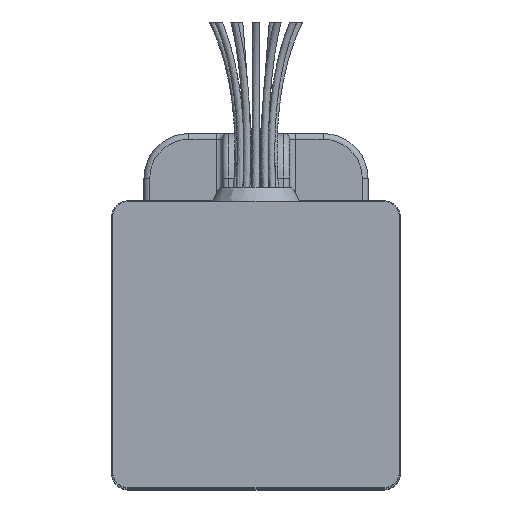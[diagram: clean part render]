
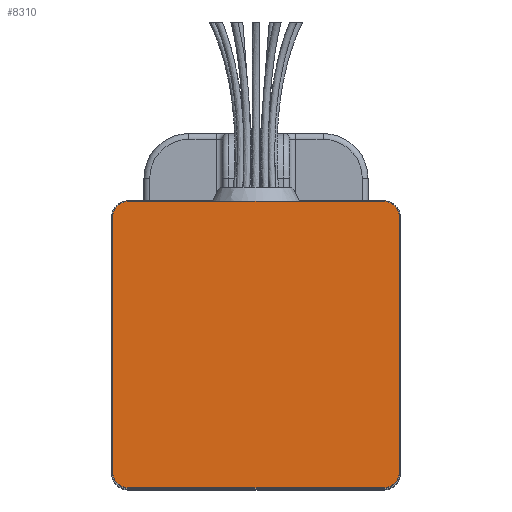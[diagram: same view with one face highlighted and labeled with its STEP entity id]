
A CAD part, top view. The second image highlights one B-rep face of the part: STEP entity #8310.
In plain terms, the highlighted planar face has unit normal (0, 0, 1).
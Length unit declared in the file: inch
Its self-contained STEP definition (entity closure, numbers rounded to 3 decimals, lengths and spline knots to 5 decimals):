
#4888=CARTESIAN_POINT('',(-0.71,0.8,0.0625));
#4889=VERTEX_POINT('',#4888);
#4896=CARTESIAN_POINT('',(0.71,0.8,0.0625));
#4897=VERTEX_POINT('',#4896);
#4898=CARTESIAN_POINT('',(-0.71,0.8,0.0625));
#4899=DIRECTION('',(1.0,0.0,0.0));
#4900=VECTOR('',#4899,1.42);
#4901=LINE('',#4898,#4900);
#4902=EDGE_CURVE('',#4889,#4897,#4901,.T.);
#8071=CARTESIAN_POINT('',(0.8,0.71,0.0625));
#8072=VERTEX_POINT('',#8071);
#8079=CARTESIAN_POINT('',(0.8,-0.71,0.0625));
#8080=VERTEX_POINT('',#8079);
#8081=CARTESIAN_POINT('',(0.8,0.71,0.0625));
#8082=DIRECTION('',(0.0,-1.0,0.0));
#8083=VECTOR('',#8082,1.42);
#8084=LINE('',#8081,#8083);
#8085=EDGE_CURVE('',#8072,#8080,#8084,.T.);
#8103=CARTESIAN_POINT('',(0.71,0.71,0.0625));
#8104=DIRECTION('',(0.0,0.0,-1.));
#8105=DIRECTION('',(0.707,0.707,0.0));
#8106=AXIS2_PLACEMENT_3D('',#8103,#8104,#8105);
#8107=CIRCLE('',#8106,0.09);
#8108=EDGE_CURVE('',#4897,#8072,#8107,.T.);
#8144=CARTESIAN_POINT('',(-0.8,0.71,0.0625));
#8145=VERTEX_POINT('',#8144);
#8152=CARTESIAN_POINT('',(-0.71,0.71,0.0625));
#8153=DIRECTION('',(0.0,0.0,-1.));
#8154=DIRECTION('',(-0.707,0.707,0.0));
#8155=AXIS2_PLACEMENT_3D('',#8152,#8153,#8154);
#8156=CIRCLE('',#8155,0.09);
#8157=EDGE_CURVE('',#8145,#4889,#8156,.T.);
#8186=CARTESIAN_POINT('',(0.71,-0.8,0.0625));
#8187=VERTEX_POINT('',#8186);
#8194=CARTESIAN_POINT('',(-0.71,-0.8,0.0625));
#8195=VERTEX_POINT('',#8194);
#8196=CARTESIAN_POINT('',(0.71,-0.8,0.0625));
#8197=DIRECTION('',(-1.0,0.0,0.0));
#8198=VECTOR('',#8197,1.42);
#8199=LINE('',#8196,#8198);
#8200=EDGE_CURVE('',#8187,#8195,#8199,.T.);
#8217=CARTESIAN_POINT('',(-0.8,-0.71,0.0625));
#8218=VERTEX_POINT('',#8217);
#8225=CARTESIAN_POINT('',(-0.8,-0.71,0.0625));
#8226=DIRECTION('',(0.0,1.0,0.0));
#8227=VECTOR('',#8226,1.42);
#8228=LINE('',#8225,#8227);
#8229=EDGE_CURVE('',#8218,#8145,#8228,.T.);
#8242=CARTESIAN_POINT('',(-0.71,-0.71,0.0625));
#8243=DIRECTION('',(0.0,0.0,-1.));
#8244=DIRECTION('',(-0.707,-0.707,0.0));
#8245=AXIS2_PLACEMENT_3D('',#8242,#8243,#8244);
#8246=CIRCLE('',#8245,0.09);
#8247=EDGE_CURVE('',#8195,#8218,#8246,.T.);
#8260=CARTESIAN_POINT('',(0.71,-0.71,0.0625));
#8261=DIRECTION('',(0.0,0.0,-1.));
#8262=DIRECTION('',(0.707,-0.707,0.0));
#8263=AXIS2_PLACEMENT_3D('',#8260,#8261,#8262);
#8264=CIRCLE('',#8263,0.09);
#8265=EDGE_CURVE('',#8080,#8187,#8264,.T.);
#8295=CARTESIAN_POINT('',(0.,0.,0.0625));
#8296=DIRECTION('',(0.0,0.0,1.0));
#8297=DIRECTION('',(1.0,0.0,0.0));
#8298=AXIS2_PLACEMENT_3D('',#8295,#8296,#8297);
#8299=PLANE('',#8298);
#8300=ORIENTED_EDGE('',*,*,#8247,.F.);
#8301=ORIENTED_EDGE('',*,*,#8200,.F.);
#8302=ORIENTED_EDGE('',*,*,#8265,.F.);
#8303=ORIENTED_EDGE('',*,*,#8085,.F.);
#8304=ORIENTED_EDGE('',*,*,#8108,.F.);
#8305=ORIENTED_EDGE('',*,*,#4902,.F.);
#8306=ORIENTED_EDGE('',*,*,#8157,.F.);
#8307=ORIENTED_EDGE('',*,*,#8229,.F.);
#8308=EDGE_LOOP('',(#8300,#8301,#8302,#8303,#8304,#8305,#8306,#8307));
#8309=FACE_OUTER_BOUND('',#8308,.T.);
#8310=ADVANCED_FACE('',(#8309),#8299,.T.);
